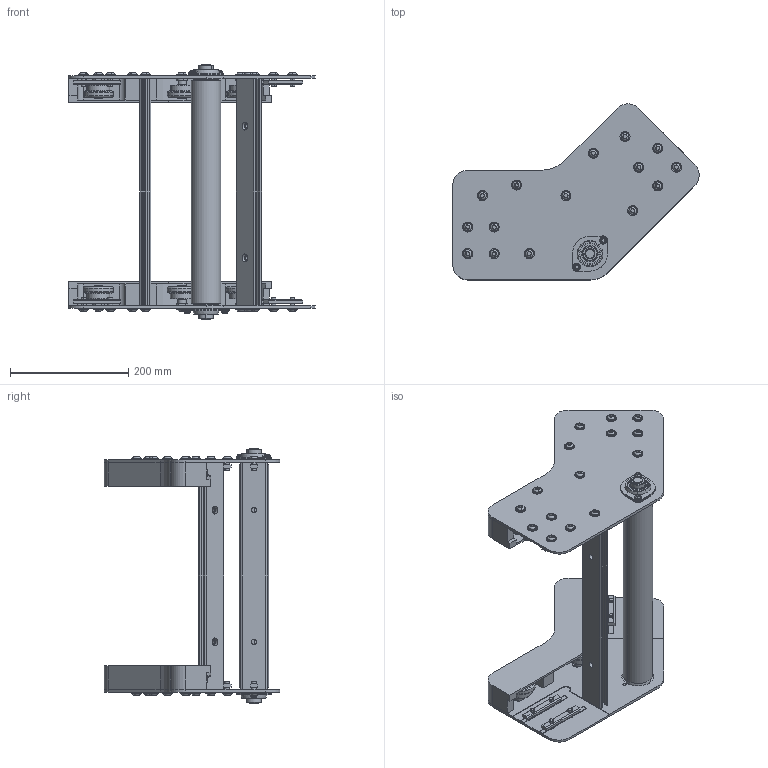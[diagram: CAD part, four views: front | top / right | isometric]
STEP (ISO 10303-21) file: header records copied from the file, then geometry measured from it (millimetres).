
FILE_DESCRIPTION (( 'STEP AP214' ), '1' );
FILE_NAME ('084.095.KA.45.350.STEP', '2021-10-18T08:28:31', ( 'Localadmin' ), ( 'Microsoft' ), 'SwSTEP 2.0', 'SolidWorks 2018', '' );
FILE_SCHEMA (( 'AUTOMOTIVE_DESIGN' ));
Length unit declared in the file: millimetre
Products named in the file (18): 084.821.116_Default<A macchina>; 084.821.115_Default<A macchina>; 084.095.KA.45.350; VITI TESTA BOMBATA ISO 730 INOX_M8x25 ISO 7380 INOX; RONDELLE UNI 6592_6.4x12.5 UNI 6592; VITI TESTA BOMBATA ISO 730 INOX_M6x10 ISO 7380 INOX; RONDELLE UNI 6592_8.4x17 UNI 6592; VITI TESTA BOMBATA ISO 730 INOX_M8x20 ISO 7380 INOX; circlip for shafts normal_din_PreviewCfg; SBPFL 203; CUSCINETTI A SFERE_6002-2Z; 084.811.004; 084.302.016; 084.821.102; 084.821.105; 084.821.103; 084.821.123; 084.821.122
Assembly tree (129 placements, depth 2):
  084.095.KA.45.350
    084.821.115_Default<A macchina>
    084.821.116_Default<A macchina>  x2
    084.821.122  x2
    084.821.123  x2
    084.821.103  x6
    084.821.105  x6
    084.821.102  x6
    084.302.016  x8
    084.811.004  x2
    CUSCINETTI A SFERE_6002-2Z  x12
    SBPFL 203  x2
    circlip for shafts normal_din_PreviewCfg  x12
    VITI TESTA BOMBATA ISO 730 INOX_M8x20 ISO 7380 INOX  x28
    RONDELLE UNI 6592_8.4x17 UNI 6592  x30
    VITI TESTA BOMBATA ISO 730 INOX_M6x10 ISO 7380 INOX  x4
    RONDELLE UNI 6592_6.4x12.5 UNI 6592  x4
    VITI TESTA BOMBATA ISO 730 INOX_M8x25 ISO 7380 INOX  x2
Bounding box: 416.33 x 297.14 x 431 mm (x, y, z)
Volume: 2353823.6 mm3; surface area: 1072015.3 mm2
Topology: 133 solids, 133 shells, 2491 faces, 5873 edges, 3800 vertices
Faces by surface type: plane 1056, cylinder 1011, cone 208, torus 196, sphere 20
Entity records: 19522 total; most frequent: DIRECTION 3444, CARTESIAN_POINT 3378, ORIENTED_EDGE 2908, EDGE_CURVE 1454, AXIS2_PLACEMENT_3D 1314, VERTEX_POINT 952, VECTOR 816, LINE 816
